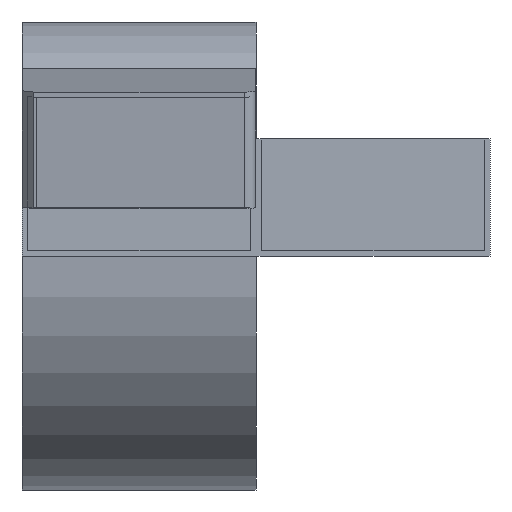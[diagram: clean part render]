
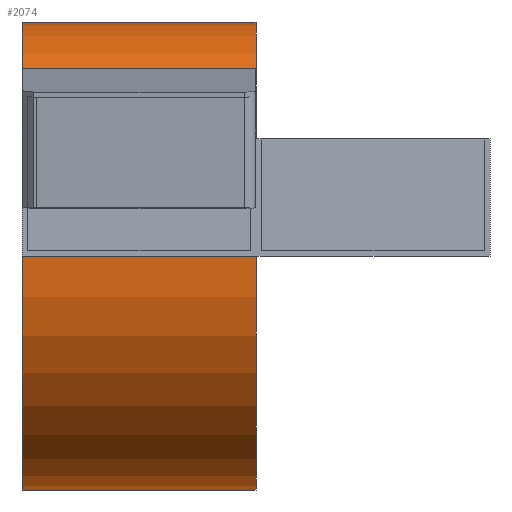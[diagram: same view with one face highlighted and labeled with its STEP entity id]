
A CAD part, left-side view. The second image highlights one B-rep face of the part: STEP entity #2074.
In plain terms, the highlighted cylindrical face has radius 20 mm (diameter 40 mm), a full revolution.
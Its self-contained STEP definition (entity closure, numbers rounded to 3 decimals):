
#2009 = EDGE_CURVE('',#2010,#2010,#2012,.T.);
#2010 = VERTEX_POINT('',#2011);
#2011 = CARTESIAN_POINT('',(120.,0.,0.));
#2012 = SURFACE_CURVE('',#2013,(#2018,#2030),.PCURVE_S1.);
#2013 = CIRCLE('',#2014,20.);
#2014 = AXIS2_PLACEMENT_3D('',#2015,#2016,#2017);
#2015 = CARTESIAN_POINT('',(100.,0.,0.));
#2016 = DIRECTION('',(-0.,1.,0.));
#2017 = DIRECTION('',(1.,0.,0.));
#2018 = PCURVE('',#2019,#2024);
#2019 = PLANE('',#2020);
#2020 = AXIS2_PLACEMENT_3D('',#2021,#2022,#2023);
#2021 = CARTESIAN_POINT('',(100.,0.,0.));
#2022 = DIRECTION('',(0.,1.,0.));
#2023 = DIRECTION('',(1.,0.,0.));
#2024 = DEFINITIONAL_REPRESENTATION('',(#2025),#2029);
#2025 = CIRCLE('',#2026,20.);
#2026 = AXIS2_PLACEMENT_2D('',#2027,#2028);
#2027 = CARTESIAN_POINT('',(0.,0.));
#2028 = DIRECTION('',(1.,0.));
#2029 = ( GEOMETRIC_REPRESENTATION_CONTEXT(2) 
PARAMETRIC_REPRESENTATION_CONTEXT() REPRESENTATION_CONTEXT('2D SPACE',''
  ) );
#2030 = PCURVE('',#2031,#2036);
#2031 = CYLINDRICAL_SURFACE('',#2032,20.);
#2032 = AXIS2_PLACEMENT_3D('',#2033,#2034,#2035);
#2033 = CARTESIAN_POINT('',(100.,20.,0.));
#2034 = DIRECTION('',(-0.,-1.,-0.));
#2035 = DIRECTION('',(1.,0.,0.));
#2036 = DEFINITIONAL_REPRESENTATION('',(#2037),#2041);
#2037 = LINE('',#2038,#2039);
#2038 = CARTESIAN_POINT('',(-0.,20.));
#2039 = VECTOR('',#2040,1.);
#2040 = DIRECTION('',(-1.,0.));
#2041 = ( GEOMETRIC_REPRESENTATION_CONTEXT(2) 
PARAMETRIC_REPRESENTATION_CONTEXT() REPRESENTATION_CONTEXT('2D SPACE',''
  ) );
#2046 = EDGE_CURVE('',#2047,#2047,#2049,.T.);
#2047 = VERTEX_POINT('',#2048);
#2048 = CARTESIAN_POINT('',(120.,20.,0.));
#2049 = SURFACE_CURVE('',#2050,(#2055,#2067),.PCURVE_S1.);
#2050 = CIRCLE('',#2051,20.);
#2051 = AXIS2_PLACEMENT_3D('',#2052,#2053,#2054);
#2052 = CARTESIAN_POINT('',(100.,20.,0.));
#2053 = DIRECTION('',(-0.,1.,0.));
#2054 = DIRECTION('',(1.,0.,0.));
#2055 = PCURVE('',#2056,#2061);
#2056 = PLANE('',#2057);
#2057 = AXIS2_PLACEMENT_3D('',#2058,#2059,#2060);
#2058 = CARTESIAN_POINT('',(100.,20.,0.));
#2059 = DIRECTION('',(0.,1.,0.));
#2060 = DIRECTION('',(1.,-0.,-0.));
#2061 = DEFINITIONAL_REPRESENTATION('',(#2062),#2066);
#2062 = CIRCLE('',#2063,20.);
#2063 = AXIS2_PLACEMENT_2D('',#2064,#2065);
#2064 = CARTESIAN_POINT('',(0.,0.));
#2065 = DIRECTION('',(1.,-0.));
#2066 = ( GEOMETRIC_REPRESENTATION_CONTEXT(2) 
PARAMETRIC_REPRESENTATION_CONTEXT() REPRESENTATION_CONTEXT('2D SPACE',''
  ) );
#2067 = PCURVE('',#2031,#2068);
#2068 = DEFINITIONAL_REPRESENTATION('',(#2069),#2073);
#2069 = LINE('',#2070,#2071);
#2070 = CARTESIAN_POINT('',(-0.,0.));
#2071 = VECTOR('',#2072,1.);
#2072 = DIRECTION('',(-1.,0.));
#2073 = ( GEOMETRIC_REPRESENTATION_CONTEXT(2) 
PARAMETRIC_REPRESENTATION_CONTEXT() REPRESENTATION_CONTEXT('2D SPACE',''
  ) );
#2074 = ADVANCED_FACE('',(#2075),#2031,.T.);
#2075 = FACE_BOUND('',#2076,.F.);
#2076 = EDGE_LOOP('',(#2077,#2078,#2099,#2100));
#2077 = ORIENTED_EDGE('',*,*,#2046,.T.);
#2078 = ORIENTED_EDGE('',*,*,#2079,.T.);
#2079 = EDGE_CURVE('',#2047,#2010,#2080,.T.);
#2080 = SEAM_CURVE('',#2081,(#2085,#2092),.PCURVE_S1.);
#2081 = LINE('',#2082,#2083);
#2082 = CARTESIAN_POINT('',(120.,20.,0.));
#2083 = VECTOR('',#2084,1.);
#2084 = DIRECTION('',(0.,-1.,0.));
#2085 = PCURVE('',#2031,#2086);
#2086 = DEFINITIONAL_REPRESENTATION('',(#2087),#2091);
#2087 = LINE('',#2088,#2089);
#2088 = CARTESIAN_POINT('',(-0.,0.));
#2089 = VECTOR('',#2090,1.);
#2090 = DIRECTION('',(-0.,1.));
#2091 = ( GEOMETRIC_REPRESENTATION_CONTEXT(2) 
PARAMETRIC_REPRESENTATION_CONTEXT() REPRESENTATION_CONTEXT('2D SPACE',''
  ) );
#2092 = PCURVE('',#2031,#2093);
#2093 = DEFINITIONAL_REPRESENTATION('',(#2094),#2098);
#2094 = LINE('',#2095,#2096);
#2095 = CARTESIAN_POINT('',(-6.283,0.));
#2096 = VECTOR('',#2097,1.);
#2097 = DIRECTION('',(-0.,1.));
#2098 = ( GEOMETRIC_REPRESENTATION_CONTEXT(2) 
PARAMETRIC_REPRESENTATION_CONTEXT() REPRESENTATION_CONTEXT('2D SPACE',''
  ) );
#2099 = ORIENTED_EDGE('',*,*,#2009,.F.);
#2100 = ORIENTED_EDGE('',*,*,#2079,.F.);
